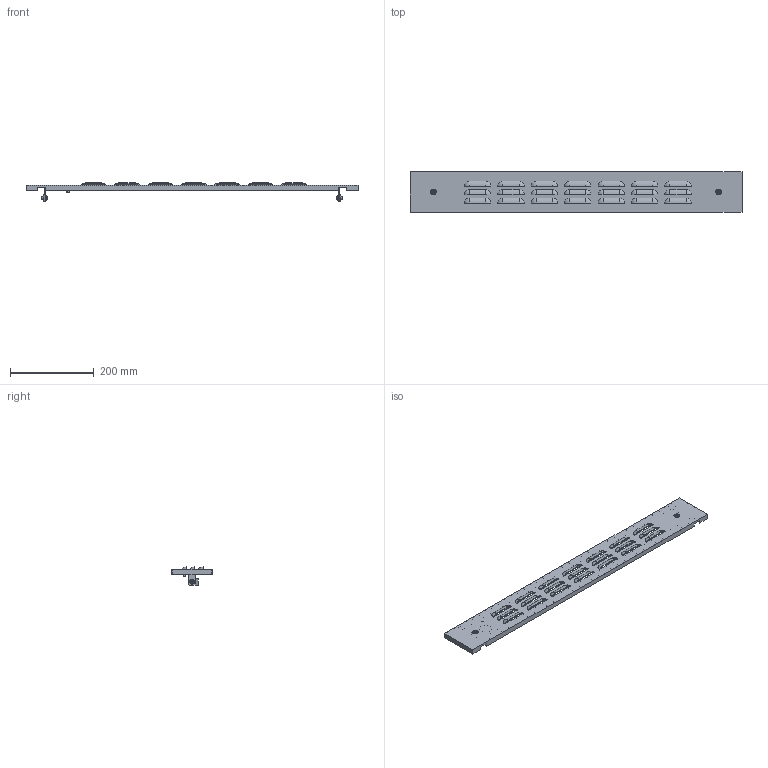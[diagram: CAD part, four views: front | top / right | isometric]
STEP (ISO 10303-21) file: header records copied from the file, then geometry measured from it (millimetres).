
FILE_DESCRIPTION (( 'STEP AP214' ), '1' );
FILE_NAME ('FO-00-PWSV-010-080 Ôàëüø-ïàíåëü âíåøíÿÿ âåíòèëèðóåìàÿ 100õ800 ìì.STEP', '2025-08-25T07:50:35', ( '' ), ( '' ), 'SwSTEP 2.0', 'SolidWorks 2023', '' );
FILE_SCHEMA (( 'AUTOMOTIVE_DESIGN' ));
Length unit declared in the file: millimetre
Products named in the file (1): FO-00-PWSV-010-080 Фальш-панель внешняя вентилируемая 100х800 мм
Bounding box: 795 x 96 x 43.5 mm (x, y, z)
Volume: 254798.9 mm3; surface area: 217567.4 mm2
Topology: 1 solids, 6 shells, 779 faces, 2084 edges, 1247 vertices
Faces by surface type: plane 356, cylinder 247, sphere 84, torus 58, cone 34
Entity records: 24035 total; most frequent: DIRECTION 4422, CARTESIAN_POINT 4311, ORIENTED_EDGE 3996, EDGE_CURVE 1998, AXIS2_PLACEMENT_3D 1660, VERTEX_POINT 1247, VECTOR 1102, LINE 1102
